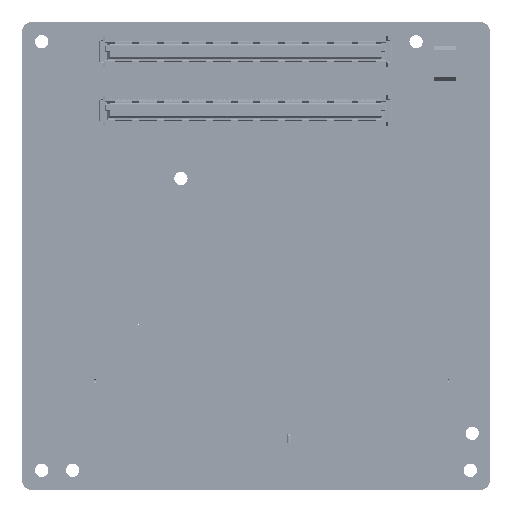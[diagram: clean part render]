
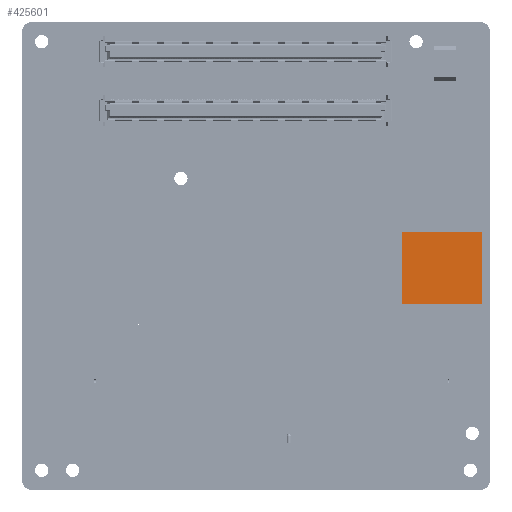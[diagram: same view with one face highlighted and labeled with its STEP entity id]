
A CAD part, front view. The second image highlights one B-rep face of the part: STEP entity #425601.
In plain terms, the highlighted planar face has unit normal (0, -1, 0).
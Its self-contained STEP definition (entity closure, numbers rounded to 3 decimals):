
#11570 = EDGE_LOOP ( 'NONE', ( #101800, #45123, #462602, #198626 ) ) ;
#13757 = LINE ( 'NONE', #486343, #304647 ) ;
#17033 = DIRECTION ( 'NONE',  ( 0., 0., 1. ) ) ;
#45123 = ORIENTED_EDGE ( 'NONE', *, *, #116106, .T. ) ;
#54735 = EDGE_CURVE ( 'NONE', #114882, #132072, #220761, .T. ) ;
#70041 = DIRECTION ( 'NONE',  ( 0., 0., 1. ) ) ;
#101800 = ORIENTED_EDGE ( 'NONE', *, *, #54735, .T. ) ;
#113317 = CARTESIAN_POINT ( 'NONE',  ( 93.09, -1., -42.534 ) ) ;
#114882 = VERTEX_POINT ( 'NONE', #268653 ) ;
#115600 = CARTESIAN_POINT ( 'NONE',  ( 76.836, -1., -57.288 ) ) ;
#116106 = EDGE_CURVE ( 'NONE', #132072, #298706, #13757, .T. ) ;
#132072 = VERTEX_POINT ( 'NONE', #263320 ) ;
#155238 = VECTOR ( 'NONE', #244126, 1000. ) ;
#159954 = VECTOR ( 'NONE', #380810, 1000. ) ;
#168109 = CARTESIAN_POINT ( 'NONE',  ( 84.963, -1., -49.911 ) ) ;
#188002 = EDGE_CURVE ( 'NONE', #438959, #114882, #325880, .T. ) ;
#198626 = ORIENTED_EDGE ( 'NONE', *, *, #188002, .T. ) ;
#220761 = LINE ( 'NONE', #483512, #410619 ) ;
#236329 = EDGE_CURVE ( 'NONE', #298706, #438959, #356818, .T. ) ;
#244126 = DIRECTION ( 'NONE',  ( -1., 0., 0. ) ) ;
#244381 = DIRECTION ( 'NONE',  ( 0., 1., 0. ) ) ;
#263320 = CARTESIAN_POINT ( 'NONE',  ( 93.09, -1., -57.288 ) ) ;
#268653 = CARTESIAN_POINT ( 'NONE',  ( 76.836, -1., -57.288 ) ) ;
#270931 = CARTESIAN_POINT ( 'NONE',  ( 76.836, -1., -42.534 ) ) ;
#298706 = VERTEX_POINT ( 'NONE', #113317 ) ;
#304647 = VECTOR ( 'NONE', #70041, 1000. ) ;
#325880 = LINE ( 'NONE', #115600, #159954 ) ;
#330032 = AXIS2_PLACEMENT_3D ( 'NONE', #168109, #244381, #17033 ) ;
#330856 = DIRECTION ( 'NONE',  ( 1., 0., 0. ) ) ;
#356818 = LINE ( 'NONE', #433093, #155238 ) ;
#369412 = FACE_OUTER_BOUND ( 'NONE', #11570, .T. ) ;
#380810 = DIRECTION ( 'NONE',  ( 0., 0., -1. ) ) ;
#410619 = VECTOR ( 'NONE', #330856, 1000. ) ;
#425601 = ADVANCED_FACE ( 'NONE', ( #369412 ), #471554, .F. ) ;
#433093 = CARTESIAN_POINT ( 'NONE',  ( 76.836, -1., -42.534 ) ) ;
#438959 = VERTEX_POINT ( 'NONE', #270931 ) ;
#462602 = ORIENTED_EDGE ( 'NONE', *, *, #236329, .T. ) ;
#471554 = PLANE ( 'NONE',  #330032 ) ;
#483512 = CARTESIAN_POINT ( 'NONE',  ( 93.09, -1., -57.288 ) ) ;
#486343 = CARTESIAN_POINT ( 'NONE',  ( 93.09, -1., -42.534 ) ) ;
